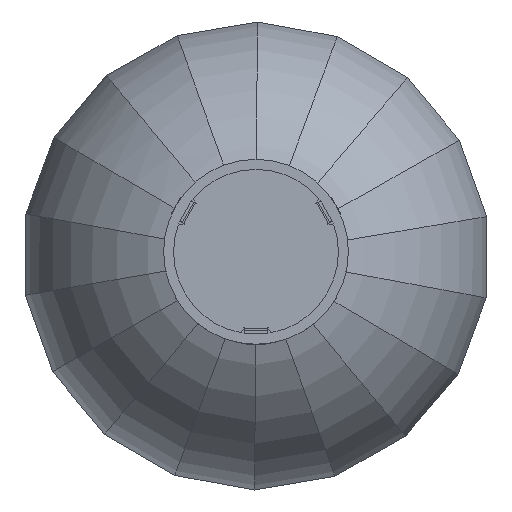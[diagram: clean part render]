
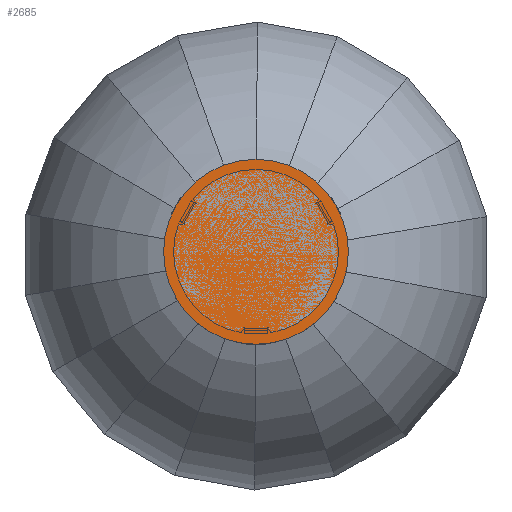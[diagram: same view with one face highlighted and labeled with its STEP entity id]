
A CAD part, top view. The second image highlights one B-rep face of the part: STEP entity #2685.
In plain terms, the highlighted planar face has unit normal (0, 0, 1).
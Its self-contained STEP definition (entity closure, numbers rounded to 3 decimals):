
#580=FACE_OUTER_BOUND('',#770,.T.);
#770=EDGE_LOOP('',(#1784));
#968=CIRCLE('',#2914,60.);
#1128=VERTEX_POINT('',#4200);
#1379=EDGE_CURVE('',#1128,#1128,#968,.T.);
#1784=ORIENTED_EDGE('',*,*,#1379,.T.);
#2594=PLANE('',#2913);
#2685=ADVANCED_FACE('',(#580),#2594,.F.);
#2913=AXIS2_PLACEMENT_3D('',#4199,#3285,#3286);
#2914=AXIS2_PLACEMENT_3D('',#4201,#3287,#3288);
#3285=DIRECTION('center_axis',(0.,0.,
-1.));
#3286=DIRECTION('ref_axis',(0.866,-0.5,0.));
#3287=DIRECTION('center_axis',(0.,0.,
1.));
#3288=DIRECTION('ref_axis',(-0.866,0.5,0.));
#4199=CARTESIAN_POINT('Origin',(0.,0.,
1729.2));
#4200=CARTESIAN_POINT('',(51.962,-30.,1729.2));
#4201=CARTESIAN_POINT('Origin',(0.,0.,
1729.2));
